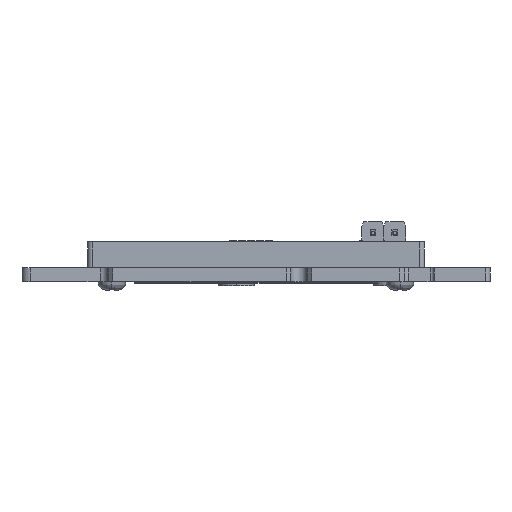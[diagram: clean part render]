
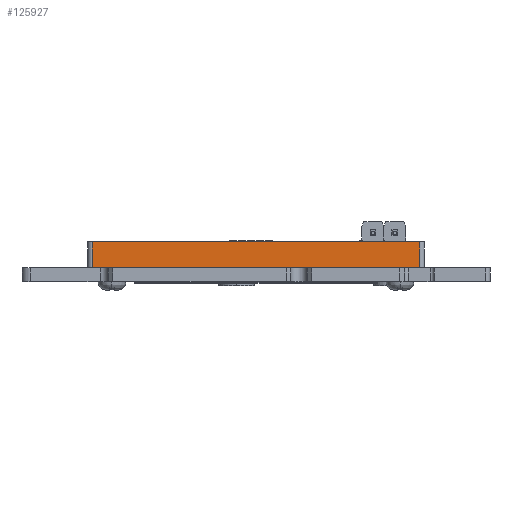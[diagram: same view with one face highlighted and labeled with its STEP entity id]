
A CAD part, front view. The second image highlights one B-rep face of the part: STEP entity #125927.
In plain terms, the highlighted planar face has unit normal (0, -1, 0).
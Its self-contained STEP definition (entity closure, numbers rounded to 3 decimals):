
#125899 = VERTEX_POINT('',#125900);
#125900 = CARTESIAN_POINT('',(0.,0.,0.));
#125907 = EDGE_CURVE('',#125908,#125899,#125910,.T.);
#125908 = VERTEX_POINT('',#125909);
#125909 = CARTESIAN_POINT('',(0.,0.,3.));
#125910 = LINE('',#125911,#125912);
#125911 = CARTESIAN_POINT('',(0.,0.,3.));
#125912 = VECTOR('',#125913,1.);
#125913 = DIRECTION('',(-0.,-0.,-1.));
#125927 = ADVANCED_FACE('',(#125928),#125953,.F.);
#125928 = FACE_BOUND('',#125929,.T.);
#125929 = EDGE_LOOP('',(#125930,#125938,#125946,#125952));
#125930 = ORIENTED_EDGE('',*,*,#125931,.T.);
#125931 = EDGE_CURVE('',#125899,#125932,#125934,.T.);
#125932 = VERTEX_POINT('',#125933);
#125933 = CARTESIAN_POINT('',(37.898,0.,0.));
#125934 = LINE('',#125935,#125936);
#125935 = CARTESIAN_POINT('',(-69.7,0.,0.));
#125936 = VECTOR('',#125937,1.);
#125937 = DIRECTION('',(1.,0.,0.));
#125938 = ORIENTED_EDGE('',*,*,#125939,.F.);
#125939 = EDGE_CURVE('',#125940,#125932,#125942,.T.);
#125940 = VERTEX_POINT('',#125941);
#125941 = CARTESIAN_POINT('',(37.898,0.,3.));
#125942 = LINE('',#125943,#125944);
#125943 = CARTESIAN_POINT('',(37.898,0.,3.));
#125944 = VECTOR('',#125945,1.);
#125945 = DIRECTION('',(-0.,-0.,-1.));
#125946 = ORIENTED_EDGE('',*,*,#125947,.F.);
#125947 = EDGE_CURVE('',#125908,#125940,#125948,.T.);
#125948 = LINE('',#125949,#125950);
#125949 = CARTESIAN_POINT('',(-69.7,0.,3.));
#125950 = VECTOR('',#125951,1.);
#125951 = DIRECTION('',(1.,0.,0.));
#125952 = ORIENTED_EDGE('',*,*,#125907,.T.);
#125953 = PLANE('',#125954);
#125954 = AXIS2_PLACEMENT_3D('',#125955,#125956,#125957);
#125955 = CARTESIAN_POINT('',(-69.7,0.,3.));
#125956 = DIRECTION('',(0.,1.,0.));
#125957 = DIRECTION('',(-1.,0.,0.));
